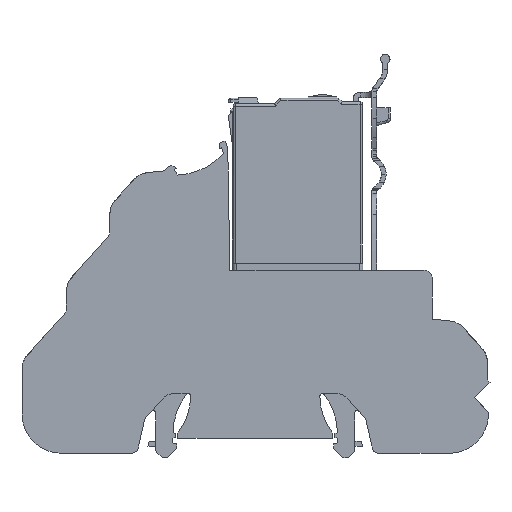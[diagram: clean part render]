
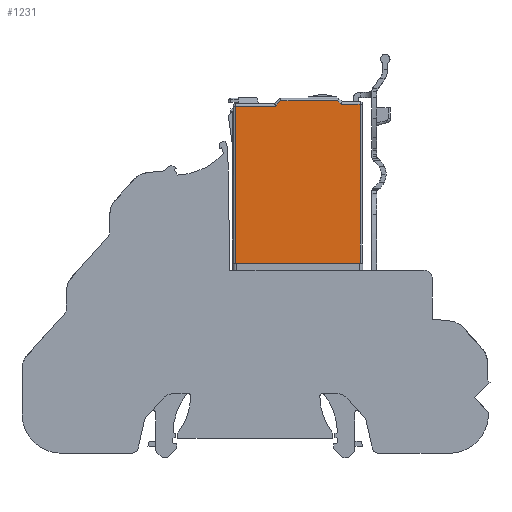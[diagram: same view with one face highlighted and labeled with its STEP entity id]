
A CAD part, left-side view. The second image highlights one B-rep face of the part: STEP entity #1231.
In plain terms, the highlighted planar face has unit normal (-1, 0, 0).
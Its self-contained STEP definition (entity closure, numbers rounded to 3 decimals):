
#795 = EDGE_CURVE ( 'NONE', #46351, #27832, #36992, .T. ) ;
#1081 = VERTEX_POINT ( 'NONE', #9707 ) ;
#1231 = ADVANCED_FACE ( 'NONE', ( #27226 ), #38140, .T. ) ;
#4210 = VECTOR ( 'NONE', #28722, 1000. ) ;
#4840 = CARTESIAN_POINT ( 'NONE',  ( 2.3, 41.035, 1.147 ) ) ;
#5275 = EDGE_CURVE ( 'NONE', #40550, #1081, #47950, .T. ) ;
#5484 = VERTEX_POINT ( 'NONE', #25584 ) ;
#6246 = CARTESIAN_POINT ( 'NONE',  ( 2.3, 53.635, 40.647 ) ) ;
#7127 = EDGE_CURVE ( 'NONE', #27832, #21140, #28431, .T. ) ;
#7318 = CARTESIAN_POINT ( 'NONE',  ( 2.3, 31.938, 74.693 ) ) ;
#8304 = VERTEX_POINT ( 'NONE', #15916 ) ;
#8935 = CARTESIAN_POINT ( 'NONE',  ( 2.3, 53.135, 73.447 ) ) ;
#8984 = DIRECTION ( 'NONE',  ( 0., 1., 0. ) ) ;
#9681 = DIRECTION ( 'NONE',  ( 0., 0., -1. ) ) ;
#9707 = CARTESIAN_POINT ( 'NONE',  ( 2.3, 31.092, 73.847 ) ) ;
#9836 = EDGE_CURVE ( 'NONE', #5484, #46351, #17044, .T. ) ;
#10878 = VECTOR ( 'NONE', #33567, 1000. ) ;
#11329 = ORIENTED_EDGE ( 'NONE', *, *, #7127, .T. ) ;
#12308 = EDGE_CURVE ( 'NONE', #14164, #21140, #47535, .T. ) ;
#14164 = VERTEX_POINT ( 'NONE', #45873 ) ;
#14522 = CARTESIAN_POINT ( 'NONE',  ( 2.3, 53.135, 40.647 ) ) ;
#15223 = ORIENTED_EDGE ( 'NONE', *, *, #34068, .T. ) ;
#15916 = CARTESIAN_POINT ( 'NONE',  ( 2.3, 31.792, 74.547 ) ) ;
#15976 = ORIENTED_EDGE ( 'NONE', *, *, #9836, .T. ) ;
#16815 = EDGE_CURVE ( 'NONE', #8304, #5484, #38631, .T. ) ;
#17044 = LINE ( 'NONE', #22300, #33055 ) ;
#17110 = AXIS2_PLACEMENT_3D ( 'NONE', #4840, #19651, #41973 ) ;
#18839 = ORIENTED_EDGE ( 'NONE', *, *, #16815, .T. ) ;
#19651 = DIRECTION ( 'NONE',  ( -1., 0., 0. ) ) ;
#19866 = LINE ( 'NONE', #38593, #21667 ) ;
#21112 = VECTOR ( 'NONE', #9681, 1000. ) ;
#21140 = VERTEX_POINT ( 'NONE', #14522 ) ;
#21667 = VECTOR ( 'NONE', #41959, 1000. ) ;
#22300 = CARTESIAN_POINT ( 'NONE',  ( 2.3, 44.631, 73.593 ) ) ;
#24906 = ORIENTED_EDGE ( 'NONE', *, *, #795, .T. ) ;
#25354 = EDGE_CURVE ( 'NONE', #1081, #8304, #40597, .T. ) ;
#25402 = DIRECTION ( 'NONE',  ( 0., 1., 0. ) ) ;
#25584 = CARTESIAN_POINT ( 'NONE',  ( 2.3, 43.678, 74.547 ) ) ;
#26331 = CARTESIAN_POINT ( 'NONE',  ( 2.3, 53.635, 73.447 ) ) ;
#27226 = FACE_OUTER_BOUND ( 'NONE', #28115, .T. ) ;
#27832 = VERTEX_POINT ( 'NONE', #8935 ) ;
#28115 = EDGE_LOOP ( 'NONE', ( #43921, #15223, #43267, #45567, #18839, #15976, #24906, #11329 ) ) ;
#28431 = LINE ( 'NONE', #42957, #21112 ) ;
#28666 = CARTESIAN_POINT ( 'NONE',  ( 2.3, 44.778, 73.447 ) ) ;
#28722 = DIRECTION ( 'NONE',  ( 0., 0.707, 0.707 ) ) ;
#32097 = DIRECTION ( 'NONE',  ( 0., 0.707, -0.707 ) ) ;
#33055 = VECTOR ( 'NONE', #32097, 1000. ) ;
#33567 = DIRECTION ( 'NONE',  ( 0., 1., 0. ) ) ;
#33614 = CARTESIAN_POINT ( 'NONE',  ( 2.3, 30.885, 73.847 ) ) ;
#34068 = EDGE_CURVE ( 'NONE', #14164, #40550, #19866, .T. ) ;
#35085 = VECTOR ( 'NONE', #25402, 1000. ) ;
#35891 = DIRECTION ( 'NONE',  ( 0., 1., 0. ) ) ;
#36992 = LINE ( 'NONE', #26331, #10878 ) ;
#37894 = CARTESIAN_POINT ( 'NONE',  ( 2.3, 27.135, 73.847 ) ) ;
#38140 = PLANE ( 'NONE',  #17110 ) ;
#38593 = CARTESIAN_POINT ( 'NONE',  ( 2.3, 27.135, 74.347 ) ) ;
#38631 = LINE ( 'NONE', #44961, #45260 ) ;
#40550 = VERTEX_POINT ( 'NONE', #37894 ) ;
#40597 = LINE ( 'NONE', #7318, #4210 ) ;
#41687 = VECTOR ( 'NONE', #35891, 1000. ) ;
#41959 = DIRECTION ( 'NONE',  ( 0., 0., 1. ) ) ;
#41973 = DIRECTION ( 'NONE',  ( 0., 0., 1. ) ) ;
#42957 = CARTESIAN_POINT ( 'NONE',  ( 2.3, 53.135, 40.647 ) ) ;
#43267 = ORIENTED_EDGE ( 'NONE', *, *, #5275, .T. ) ;
#43921 = ORIENTED_EDGE ( 'NONE', *, *, #12308, .F. ) ;
#44961 = CARTESIAN_POINT ( 'NONE',  ( 2.3, 43.885, 74.547 ) ) ;
#45260 = VECTOR ( 'NONE', #8984, 1000. ) ;
#45567 = ORIENTED_EDGE ( 'NONE', *, *, #25354, .T. ) ;
#45873 = CARTESIAN_POINT ( 'NONE',  ( 2.3, 27.135, 40.647 ) ) ;
#46351 = VERTEX_POINT ( 'NONE', #28666 ) ;
#47535 = LINE ( 'NONE', #6246, #41687 ) ;
#47950 = LINE ( 'NONE', #33614, #35085 ) ;
